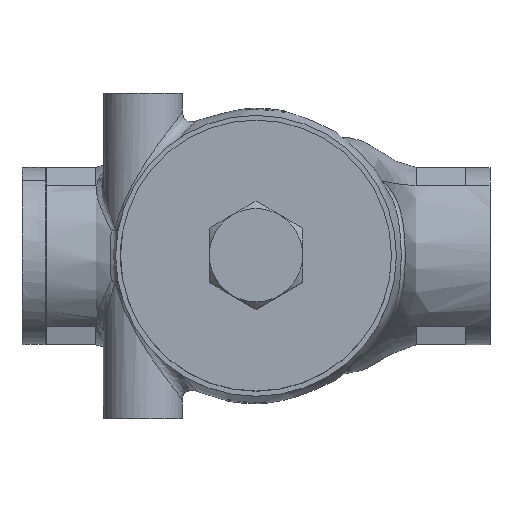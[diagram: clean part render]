
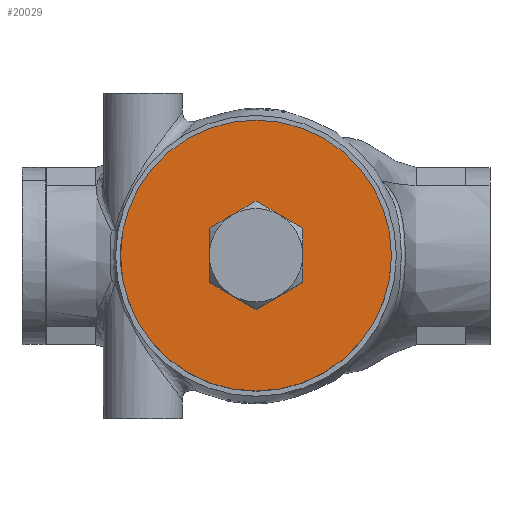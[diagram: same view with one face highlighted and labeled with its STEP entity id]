
A CAD part, top view. The second image highlights one B-rep face of the part: STEP entity #20029.
In plain terms, the highlighted planar face has unit normal (0, 0, 1).
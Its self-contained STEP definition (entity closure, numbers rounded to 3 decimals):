
#306=CARTESIAN_POINT('',(-9.5,-5.485,61.));
#307=VERTEX_POINT('',#306);
#314=CARTESIAN_POINT('',(0.,-10.97,61.));
#315=VERTEX_POINT('',#314);
#316=CARTESIAN_POINT('',(0.,-10.97,61.));
#317=DIRECTION('',(-0.866,0.5,0.0));
#318=VECTOR('',#317,10.97);
#319=LINE('',#316,#318);
#320=EDGE_CURVE('',#315,#307,#319,.T.);
#337=CARTESIAN_POINT('',(-9.5,5.485,61.));
#338=VERTEX_POINT('',#337);
#345=CARTESIAN_POINT('',(-9.5,-5.485,61.));
#346=DIRECTION('',(0.0,1.0,0.0));
#347=VECTOR('',#346,10.97);
#348=LINE('',#345,#347);
#349=EDGE_CURVE('',#307,#338,#348,.T.);
#361=CARTESIAN_POINT('',(0.,10.97,61.));
#362=VERTEX_POINT('',#361);
#369=CARTESIAN_POINT('',(-9.5,5.485,61.));
#370=DIRECTION('',(0.866,0.5,0.0));
#371=VECTOR('',#370,10.97);
#372=LINE('',#369,#371);
#373=EDGE_CURVE('',#338,#362,#372,.T.);
#385=CARTESIAN_POINT('',(9.5,5.485,61.));
#386=VERTEX_POINT('',#385);
#393=CARTESIAN_POINT('',(0.,10.97,61.));
#394=DIRECTION('',(0.866,-0.5,0.0));
#395=VECTOR('',#394,10.97);
#396=LINE('',#393,#395);
#397=EDGE_CURVE('',#362,#386,#396,.T.);
#409=CARTESIAN_POINT('',(9.5,-5.485,61.));
#410=VERTEX_POINT('',#409);
#417=CARTESIAN_POINT('',(9.5,5.485,61.));
#418=DIRECTION('',(0.0,-1.0,0.0));
#419=VECTOR('',#418,10.97);
#420=LINE('',#417,#419);
#421=EDGE_CURVE('',#386,#410,#420,.T.);
#434=CARTESIAN_POINT('',(9.5,-5.485,61.));
#435=DIRECTION('',(-0.866,-0.5,0.0));
#436=VECTOR('',#435,10.97);
#437=LINE('',#434,#436);
#438=EDGE_CURVE('',#410,#315,#437,.T.);
#20001=CARTESIAN_POINT('',(27.5,0.0,61.));
#20002=VERTEX_POINT('',#20001);
#20003=CARTESIAN_POINT('',(0.,0.0,61.));
#20004=DIRECTION('',(0.0,0.0,-1.0));
#20005=DIRECTION('',(1.0,0.0,0.0));
#20006=AXIS2_PLACEMENT_3D('',#20003,#20004,#20005);
#20007=CIRCLE('',#20006,27.5);
#20008=EDGE_CURVE('',#20002,#20002,#20007,.T.);
#20013=CARTESIAN_POINT('',(17.5,0.0,61.));
#20014=DIRECTION('',(0.0,0.0,1.0));
#20015=DIRECTION('',(-1.0,0.0,0.0));
#20016=AXIS2_PLACEMENT_3D('',#20013,#20014,#20015);
#20017=PLANE('',#20016);
#20018=ORIENTED_EDGE('',*,*,#20008,.F.);
#20019=EDGE_LOOP('',(#20018));
#20020=FACE_OUTER_BOUND('',#20019,.T.);
#20021=ORIENTED_EDGE('',*,*,#320,.T.);
#20022=ORIENTED_EDGE('',*,*,#349,.T.);
#20023=ORIENTED_EDGE('',*,*,#373,.T.);
#20024=ORIENTED_EDGE('',*,*,#397,.T.);
#20025=ORIENTED_EDGE('',*,*,#421,.T.);
#20026=ORIENTED_EDGE('',*,*,#438,.T.);
#20027=EDGE_LOOP('',(#20021,#20022,#20023,#20024,#20025,#20026));
#20028=FACE_BOUND('',#20027,.T.);
#20029=ADVANCED_FACE('',(#20020,#20028),#20017,.T.);
